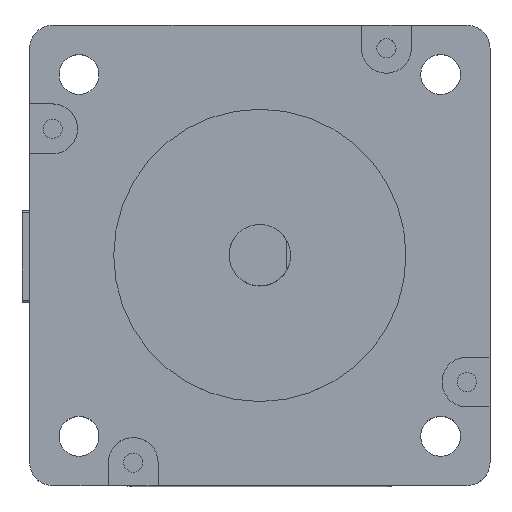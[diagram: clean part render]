
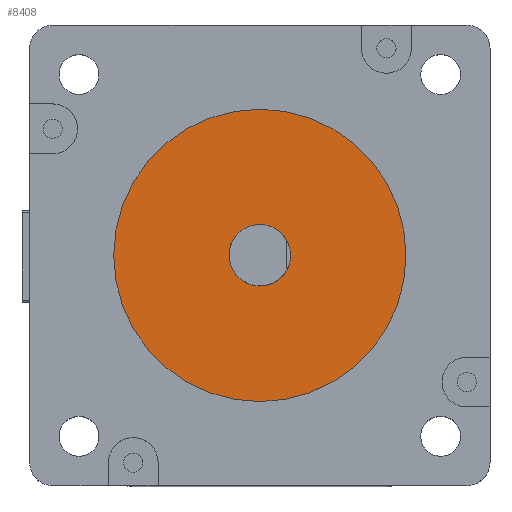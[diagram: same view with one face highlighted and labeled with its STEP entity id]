
A CAD part, top view. The second image highlights one B-rep face of the part: STEP entity #8408.
In plain terms, the highlighted planar face has unit normal (0, 0, 1).
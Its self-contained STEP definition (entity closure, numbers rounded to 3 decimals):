
#2197=CARTESIAN_POINT('',(30.,30.,87.6));
#2198=DIRECTION('',(0.,0.,1.));
#2199=DIRECTION('',(1.,0.,0.));
#2200=AXIS2_PLACEMENT_3D('',#2197,#2198,#2199);
#2202=CARTESIAN_POINT('',(30.,30.,87.6));
#2203=DIRECTION('',(0.,0.,1.));
#2204=DIRECTION('',(-1.,0.,0.));
#2205=AXIS2_PLACEMENT_3D('',#2202,#2203,#2204);
#2216=CARTESIAN_POINT('',(30.,30.,87.6));
#2217=DIRECTION('',(0.,0.,-1.));
#2218=DIRECTION('',(-1.,0.,0.));
#2219=AXIS2_PLACEMENT_3D('',#2216,#2217,#2218);
#2234=CARTESIAN_POINT('',(30.,30.,87.6));
#2235=DIRECTION('',(0.,0.,-1.));
#2236=DIRECTION('',(1.,0.,0.));
#2237=AXIS2_PLACEMENT_3D('',#2234,#2235,#2236);
#5655=CARTESIAN_POINT('',(49.05,30.,87.6));
#5656=CARTESIAN_POINT('',(10.95,30.,87.6));
#5657=VERTEX_POINT('',#5655);
#5658=VERTEX_POINT('',#5656);
#5663=CARTESIAN_POINT('',(26.,30.,87.6));
#5664=CARTESIAN_POINT('',(34.,30.,87.6));
#5665=VERTEX_POINT('',#5663);
#5666=VERTEX_POINT('',#5664);
#8393=CARTESIAN_POINT('',(0.,0.,87.6));
#8394=DIRECTION('',(0.,0.,1.));
#8395=DIRECTION('',(1.,0.,0.));
#8396=AXIS2_PLACEMENT_3D('',#8393,#8394,#8395);
#8397=PLANE('',#8396);
#8398=ORIENTED_EDGE('',*,*,#8373,.F.);
#8399=ORIENTED_EDGE('',*,*,#8387,.F.);
#8400=EDGE_LOOP('',(#8398,#8399));
#8401=FACE_OUTER_BOUND('',#8400,.F.);
#8403=ORIENTED_EDGE('',*,*,#8402,.F.);
#8405=ORIENTED_EDGE('',*,*,#8404,.F.);
#8406=EDGE_LOOP('',(#8403,#8405));
#8407=FACE_BOUND('',#8406,.F.);
#8408=ADVANCED_FACE('',(#8401,#8407),#8397,.T.);
#2201=CIRCLE('',#2200,19.05);
#2206=CIRCLE('',#2205,19.05);
#2220=CIRCLE('',#2219,4.);
#2238=CIRCLE('',#2237,4.);
#8373=EDGE_CURVE('',#5657,#5658,#2201,.T.);
#8387=EDGE_CURVE('',#5658,#5657,#2206,.T.);
#8402=EDGE_CURVE('',#5665,#5666,#2220,.T.);
#8404=EDGE_CURVE('',#5666,#5665,#2238,.T.);
